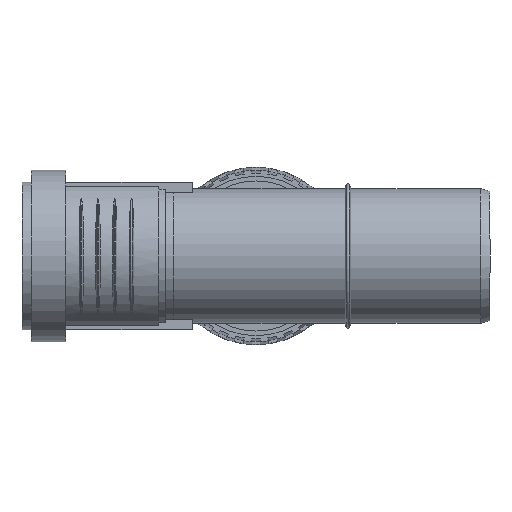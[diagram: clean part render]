
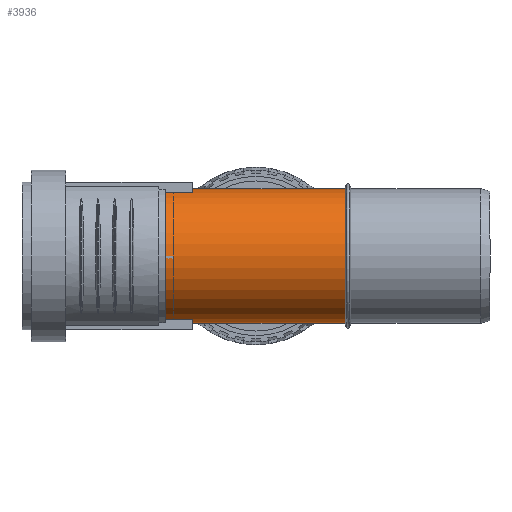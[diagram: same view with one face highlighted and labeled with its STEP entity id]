
A CAD part, left-side view. The second image highlights one B-rep face of the part: STEP entity #3936.
In plain terms, the highlighted cylindrical face has radius 25.075 mm (diameter 50.15 mm), a full revolution.
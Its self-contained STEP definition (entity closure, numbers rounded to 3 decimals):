
#137=FACE_BOUND($,#1160,.T.);
#138=FACE_BOUND($,#1161,.T.);
#190=LINE($,#5627,#490);
#191=LINE($,#5630,#491);
#490=VECTOR($,#4529,3.518);
#491=VECTOR($,#4532,3.518);
#951=FACE_OUTER_BOUND($,#1159,.T.);
#1159=EDGE_LOOP($,(#2570));
#1160=EDGE_LOOP($,(#2571));
#1161=EDGE_LOOP($,(#2572,#2573,#2574,#2575,#2576,#2577,#2578));
#1417=B_SPLINE_CURVE_WITH_KNOTS($,3,(#5544,#5545,#5546,#5547,#5548,#5549,
#5550,#5551,#5552,#5553,#5554,#5555,#5556,#5557,#5558,#5559,#5560,#5561,
#5562,#5563,#5564,#5565,#5566,#5567,#5568,#5569,#5570,#5571,#5572,#5573,
#5574,#5575,#5576,#5577,#5578,#5579,#5580,#5581),.UNSPECIFIED.,.F.,.F.,
(4,2,2,2,2,2,2,2,2,2,2,2,2,2,2,2,2,2,4),(4.378,4.879,
5.38,5.88,6.381,6.975,7.569,
8.163,8.46,8.757,9.054,9.351,
9.944,10.538,11.132,11.633,12.134,
12.634,13.135),.UNSPECIFIED.);
#1418=B_SPLINE_CURVE_WITH_KNOTS($,3,(#5585,#5586,#5587,#5588,#5589,#5590,
#5591,#5592,#5593,#5594,#5595,#5596,#5597,#5598,#5599,#5600,#5601,#5602,
#5603,#5604),.UNSPECIFIED.,.F.,.F.,(4,2,2,2,2,2,2,2,2,4),(0.,0.297,
0.594,1.188,1.782,2.375,2.876,
3.377,3.878,4.378),.UNSPECIFIED.);
#1419=B_SPLINE_CURVE_WITH_KNOTS($,3,(#5605,#5606,#5607,#5608,#5609,#5610,
#5611,#5612,#5613,#5614,#5615,#5616,#5617,#5618,#5619,#5620,#5621,#5622,
#5623,#5624),.UNSPECIFIED.,.F.,.F.,(4,2,2,2,2,2,2,2,2,4),(13.135,
13.636,14.136,14.637,15.138,15.732,
16.326,16.919,17.216,17.513),
 .UNSPECIFIED.);
#1474=CIRCLE($,#4164,25.075);
#1475=CIRCLE($,#4165,25.075);
#1608=VERTEX_POINT($,#5541);
#1609=VERTEX_POINT($,#5542);
#1610=VERTEX_POINT($,#5584);
#1611=VERTEX_POINT($,#5626);
#1612=VERTEX_POINT($,#5628);
#1613=VERTEX_POINT($,#5632);
#1614=VERTEX_POINT($,#5634);
#1999=EDGE_CURVE($,#1609,#1608,#1417,.T.);
#2001=EDGE_CURVE($,#1610,#1609,#1418,.T.);
#2002=EDGE_CURVE($,#1608,#1610,#1419,.T.);
#2003=EDGE_CURVE($,#1609,#1611,#190,.T.);
#2005=EDGE_CURVE($,#1612,#1608,#191,.T.);
#2006=EDGE_CURVE($,#1613,#1613,#1474,.T.);
#2007=EDGE_CURVE($,#1614,#1614,#1475,.T.);
#2570=ORIENTED_EDGE($,*,*,#2006,.T.);
#2571=ORIENTED_EDGE($,*,*,#2007,.F.);
#2572=ORIENTED_EDGE($,*,*,#1999,.T.);
#2573=ORIENTED_EDGE($,*,*,#2005,.F.);
#2574=ORIENTED_EDGE($,*,*,#2005,.T.);
#2575=ORIENTED_EDGE($,*,*,#2002,.T.);
#2576=ORIENTED_EDGE($,*,*,#2001,.T.);
#2577=ORIENTED_EDGE($,*,*,#2003,.T.);
#2578=ORIENTED_EDGE($,*,*,#2003,.F.);
#3693=CYLINDRICAL_SURFACE($,#4163,25.075);
#3936=ADVANCED_FACE($,(#951,#137,#138),#3693,.T.);
#4163=AXIS2_PLACEMENT_3D($,#5631,#4533,#4534);
#4164=AXIS2_PLACEMENT_3D($,#5633,#4535,#4536);
#4165=AXIS2_PLACEMENT_3D($,#5635,#4537,#4538);
#4529=DIRECTION($,(0.,1.,0.));
#4532=DIRECTION($,(0.,1.,0.));
#4533=DIRECTION('center_axis',(0.,1.,0.));
#4534=DIRECTION('ref_axis',(-1.,0.,0.));
#4535=DIRECTION('center_axis',(0.,1.,0.));
#4536=DIRECTION('ref_axis',(-1.,0.,0.));
#4537=DIRECTION('center_axis',(0.,1.,0.));
#4538=DIRECTION('ref_axis',(-1.,0.,0.));
#5541=CARTESIAN_POINT('',(25.075,62.633,0.));
#5542=CARTESIAN_POINT('',(25.075,111.368,0.));
#5544=CARTESIAN_POINT('Ctrl Pts',(25.075,111.368,0.));
#5545=CARTESIAN_POINT('Ctrl Pts',(25.075,111.368,-1.669));
#5546=CARTESIAN_POINT('Ctrl Pts',(24.906,111.193,-3.355));
#5547=CARTESIAN_POINT('Ctrl Pts',(24.24,110.507,-6.632));
#5548=CARTESIAN_POINT('Ctrl Pts',(23.743,109.995,-8.223));
#5549=CARTESIAN_POINT('Ctrl Pts',(22.491,108.7,-11.204));
#5550=CARTESIAN_POINT('Ctrl Pts',(21.733,107.915,-12.598));
#5551=CARTESIAN_POINT('Ctrl Pts',(20.06,106.17,-15.12));
#5552=CARTESIAN_POINT('Ctrl Pts',(19.145,105.211,-16.249));
#5553=CARTESIAN_POINT('Ctrl Pts',(17.117,103.067,-18.394));
#5554=CARTESIAN_POINT('Ctrl Pts',(15.92,101.791,-19.432));
#5555=CARTESIAN_POINT('Ctrl Pts',(13.466,99.109,-21.207));
#5556=CARTESIAN_POINT('Ctrl Pts',(12.206,97.705,-21.944));
#5557=CARTESIAN_POINT('Ctrl Pts',(9.8,94.852,-23.119));
#5558=CARTESIAN_POINT('Ctrl Pts',(8.66,93.428,-23.553));
#5559=CARTESIAN_POINT('Ctrl Pts',(7.234,91.204,-24.014));
#5560=CARTESIAN_POINT('Ctrl Pts',(6.809,90.452,-24.135));
#5561=CARTESIAN_POINT('Ctrl Pts',(6.152,88.844,-24.311));
#5562=CARTESIAN_POINT('Ctrl Pts',(5.914,87.99,-24.368));
#5563=CARTESIAN_POINT('Ctrl Pts',(5.914,86.01,-24.368));
#5564=CARTESIAN_POINT('Ctrl Pts',(6.152,85.156,-24.311));
#5565=CARTESIAN_POINT('Ctrl Pts',(6.809,83.548,-24.135));
#5566=CARTESIAN_POINT('Ctrl Pts',(7.234,82.796,-24.014));
#5567=CARTESIAN_POINT('Ctrl Pts',(8.66,80.572,-23.553));
#5568=CARTESIAN_POINT('Ctrl Pts',(9.8,79.148,-23.119));
#5569=CARTESIAN_POINT('Ctrl Pts',(12.206,76.295,-21.944));
#5570=CARTESIAN_POINT('Ctrl Pts',(13.466,74.891,-21.207));
#5571=CARTESIAN_POINT('Ctrl Pts',(15.92,72.209,-19.432));
#5572=CARTESIAN_POINT('Ctrl Pts',(17.117,70.933,-18.394));
#5573=CARTESIAN_POINT('Ctrl Pts',(19.145,68.789,-16.249));
#5574=CARTESIAN_POINT('Ctrl Pts',(20.06,67.83,-15.12));
#5575=CARTESIAN_POINT('Ctrl Pts',(21.733,66.085,-12.598));
#5576=CARTESIAN_POINT('Ctrl Pts',(22.491,65.3,-11.204));
#5577=CARTESIAN_POINT('Ctrl Pts',(23.743,64.005,-8.223));
#5578=CARTESIAN_POINT('Ctrl Pts',(24.24,63.493,-6.632));
#5579=CARTESIAN_POINT('Ctrl Pts',(24.906,62.807,-3.355));
#5580=CARTESIAN_POINT('Ctrl Pts',(25.075,62.633,-1.669));
#5581=CARTESIAN_POINT('Ctrl Pts',(25.075,62.633,0.));
#5584=CARTESIAN_POINT('',(5.914,87.,24.368));
#5585=CARTESIAN_POINT('Ctrl Pts',(5.914,87.,24.368));
#5586=CARTESIAN_POINT('Ctrl Pts',(5.914,87.99,24.368));
#5587=CARTESIAN_POINT('Ctrl Pts',(6.152,88.844,24.311));
#5588=CARTESIAN_POINT('Ctrl Pts',(6.809,90.452,24.135));
#5589=CARTESIAN_POINT('Ctrl Pts',(7.234,91.204,24.014));
#5590=CARTESIAN_POINT('Ctrl Pts',(8.66,93.428,23.553));
#5591=CARTESIAN_POINT('Ctrl Pts',(9.8,94.852,23.119));
#5592=CARTESIAN_POINT('Ctrl Pts',(12.206,97.705,21.944));
#5593=CARTESIAN_POINT('Ctrl Pts',(13.466,99.109,21.207));
#5594=CARTESIAN_POINT('Ctrl Pts',(15.92,101.791,19.432));
#5595=CARTESIAN_POINT('Ctrl Pts',(17.117,103.067,18.394));
#5596=CARTESIAN_POINT('Ctrl Pts',(19.145,105.211,16.249));
#5597=CARTESIAN_POINT('Ctrl Pts',(20.06,106.17,15.12));
#5598=CARTESIAN_POINT('Ctrl Pts',(21.733,107.915,12.598));
#5599=CARTESIAN_POINT('Ctrl Pts',(22.491,108.7,11.204));
#5600=CARTESIAN_POINT('Ctrl Pts',(23.743,109.995,8.223));
#5601=CARTESIAN_POINT('Ctrl Pts',(24.24,110.507,6.632));
#5602=CARTESIAN_POINT('Ctrl Pts',(24.906,111.193,3.355));
#5603=CARTESIAN_POINT('Ctrl Pts',(25.075,111.368,1.669));
#5604=CARTESIAN_POINT('Ctrl Pts',(25.075,111.368,0.));
#5605=CARTESIAN_POINT('Ctrl Pts',(25.075,62.633,0.));
#5606=CARTESIAN_POINT('Ctrl Pts',(25.075,62.633,1.669));
#5607=CARTESIAN_POINT('Ctrl Pts',(24.906,62.807,3.355));
#5608=CARTESIAN_POINT('Ctrl Pts',(24.24,63.493,6.632));
#5609=CARTESIAN_POINT('Ctrl Pts',(23.743,64.005,8.223));
#5610=CARTESIAN_POINT('Ctrl Pts',(22.491,65.3,11.204));
#5611=CARTESIAN_POINT('Ctrl Pts',(21.733,66.085,12.598));
#5612=CARTESIAN_POINT('Ctrl Pts',(20.06,67.83,15.12));
#5613=CARTESIAN_POINT('Ctrl Pts',(19.145,68.789,16.249));
#5614=CARTESIAN_POINT('Ctrl Pts',(17.117,70.933,18.394));
#5615=CARTESIAN_POINT('Ctrl Pts',(15.92,72.209,19.432));
#5616=CARTESIAN_POINT('Ctrl Pts',(13.466,74.891,21.207));
#5617=CARTESIAN_POINT('Ctrl Pts',(12.206,76.295,21.944));
#5618=CARTESIAN_POINT('Ctrl Pts',(9.8,79.148,23.119));
#5619=CARTESIAN_POINT('Ctrl Pts',(8.66,80.572,23.553));
#5620=CARTESIAN_POINT('Ctrl Pts',(7.234,82.796,24.014));
#5621=CARTESIAN_POINT('Ctrl Pts',(6.809,83.548,24.135));
#5622=CARTESIAN_POINT('Ctrl Pts',(6.152,85.156,24.311));
#5623=CARTESIAN_POINT('Ctrl Pts',(5.914,86.01,24.368));
#5624=CARTESIAN_POINT('Ctrl Pts',(5.914,87.,24.368));
#5626=CARTESIAN_POINT('',(25.075,114.885,0.));
#5627=CARTESIAN_POINT($,(25.075,88.5,0.));
#5628=CARTESIAN_POINT('',(25.075,59.115,0.));
#5630=CARTESIAN_POINT($,(25.075,88.5,0.));
#5631=CARTESIAN_POINT('Origin',(0.,88.5,0.));
#5632=CARTESIAN_POINT('',(-25.075,53.8,0.));
#5633=CARTESIAN_POINT('Origin',(0.,53.8,0.));
#5634=CARTESIAN_POINT('',(-25.075,123.2,0.));
#5635=CARTESIAN_POINT('Origin',(0.,123.2,0.));
